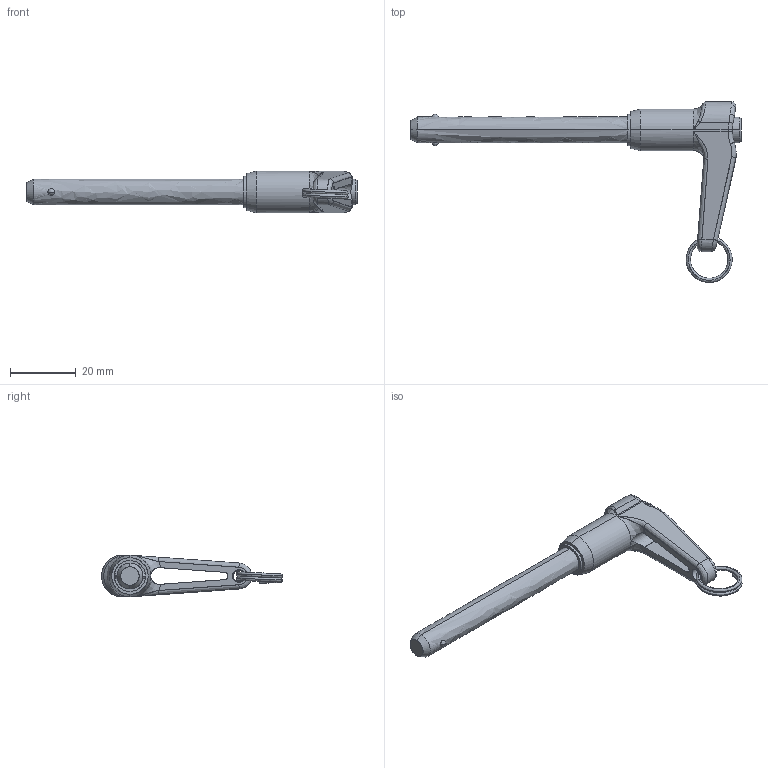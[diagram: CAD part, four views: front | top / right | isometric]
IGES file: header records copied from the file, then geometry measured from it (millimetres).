
Start section: SolidWorks IGES file using analytic representation for surfaces
Global section: file name: C:\Documents and Settings\IANO\My Documents\Wix and Auto CAD Work\CAD Models\Parametric Models\Wix Models\30000\33620_v2\33620_v2_20160606_IGES\33620.C023.igs; native system: SolidWorks 2009; preprocessor: SolidWorks 2009; author: IANO; date: 160615.125849; units: inch
Bounding box: 100.67 x 55.09 x 12.7 mm (x, y, z)
Surface area: 6400.5 mm2 (no closed solid volume)
Topology: 0 solids, 0 shells, 85 faces, 1226 edges, 1224 vertices
Faces by surface type: bspline 55, revolution 30
